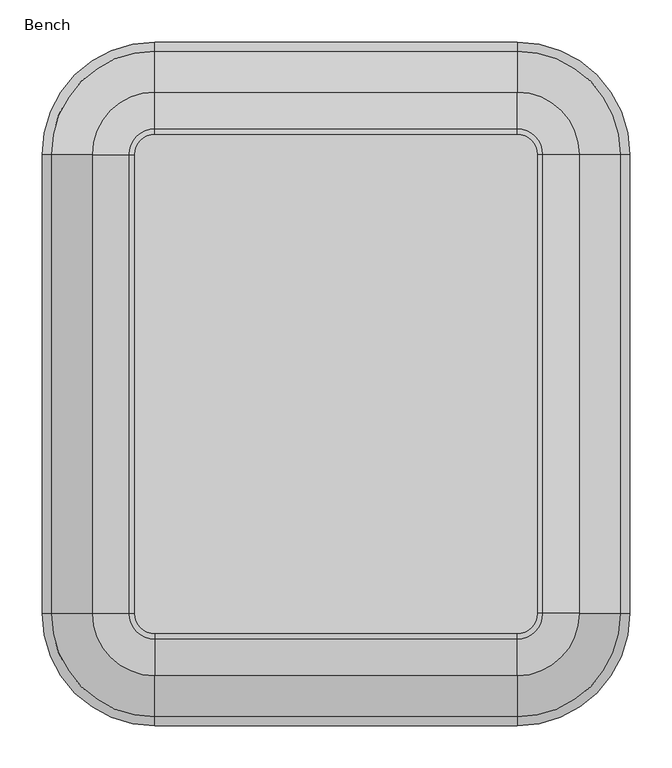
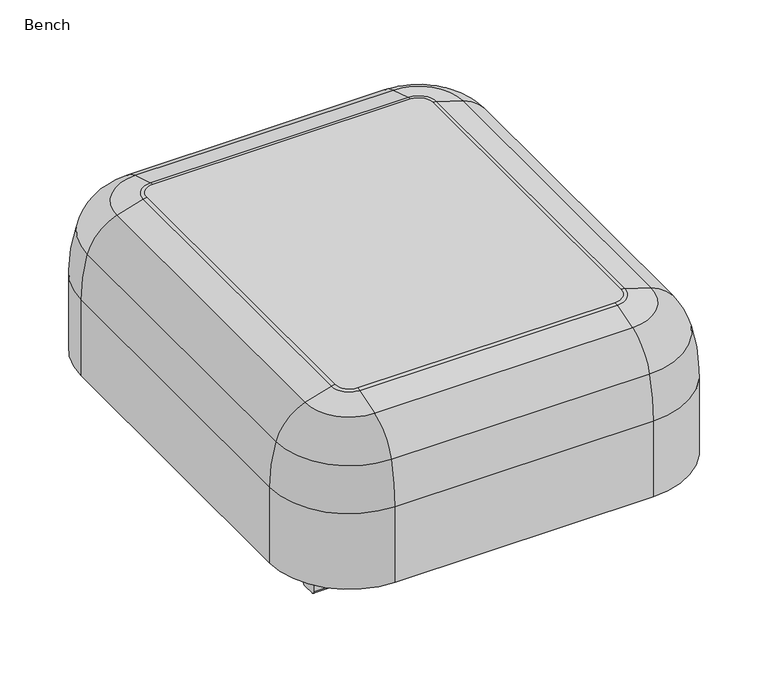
"""IFC4 building model written with IfcOpenShell, lengths in millimetres: furniture geometry, Coalesse_AM_Seating_LoungeChair_Ensemble_Modular_Bench : Bench."""

from ifc_helpers import new_model, si_unit, point, frame, frame_2d, origin, place, context, project, spatial, polyline, circle_curve, ellipse_curve, trimmed, segment, composite_curve, outline, extrude, source, transform, mapped, element, save
from ifc_brep_helpers import plane_surface, cylinder_surface, revolved_surface, advanced_brep


def bench_887439ae(model_context):
    return source(origin(), model_context, "Body", "SolidModel", [
        advanced_brep(
        [(349.7670833, 133.8670833, 263.8730144), (349.7670833, 133.8670833, 130.0907271), (349.7670833, 679.9670833, 130.0907271), (349.7670833, 679.9670833, 263.8730144), (338.9812591, 679.9670833, 341.0501129), (338.9812591, 133.8670833, 341.0501129), (290.0181867, 679.9670833, 393.2641497), (290.0181867, 133.8670833, 393.2641497), (215.9, 813.8341665, 263.8730144), (215.9, 813.8341665, 130.0907271), (-215.9, 813.8341665, 130.0907271), (-215.9, 813.8341665, 263.8730144), (-215.9, 803.0483423, 341.0501129), (215.9, 803.0483423, 341.0501129), (-215.9, 754.0852699, 393.2641497), (215.9, 754.0852699, 393.2641497), (-349.7670833, 679.9670833, 263.8730144), (-349.7670833, 679.9670833, 130.0907271), (-349.7670833, 133.8670833, 130.0907271), (-349.7670833, 133.8670833, 263.8730144), (-338.9812591, 133.8670833, 341.0501129), (-338.9812591, 679.9670833, 341.0501129), (-290.0181867, 133.8670833, 393.2641497), (-290.0181867, 679.9670833, 393.2641497), (-215.9, 0.0, 263.8730144), (-215.9, 0.0, 130.0907271), (215.9, 0.0, 130.0907271), (215.9, 0.0, 263.8730144), (215.9, 10.7858242, 341.0501129), (-215.9, 10.7858242, 341.0501129), (215.9, 59.7488966, 393.2641497), (-215.9, 59.7488966, 393.2641497), (246.3697275, 133.8670833, 406.9392607), (215.9, 103.3973557, 406.9392607), (246.3697275, 679.9670833, 406.9392607), (215.9, 710.4368108, 406.9392607), (-215.9, 710.4368108, 406.9392607), (-246.3697275, 679.9670833, 406.9392607), (-246.3697275, 133.8670833, 406.9392607), (-215.9, 103.3973557, 406.9392607), (240.066495, 133.8670833, 407.7802548), (215.9, 109.7005883, 407.7802548), (240.066495, 679.9670833, 407.7802548), (215.9, 704.1335782, 407.7802548), (-215.9, 704.1335782, 407.7802548), (-240.066495, 679.9670833, 407.7802548), (-240.066495, 133.8670833, 407.7802548), (-215.9, 109.7005883, 407.7802548)],
        [
            (0, 1),
            (1, 2),
            (2, 3),
            (3, 0),
            (3, 4, circle_curve(frame((68.2569074, 679.9670833, 263.8730144), z_axis=(0.0, -1.0, 0.0), x_axis=(1.0, 0.0, 0.0)), 281.5101759)),
            (4, 5),
            (5, 0, circle_curve(frame((68.2569074, 133.8670833, 263.8730144), z_axis=(0.0, 1.0, 0.0), x_axis=(1.0, 0.0, 0.0)), 281.5101759)),
            (4, 6, circle_curve(frame((263.8055604, 679.9670833, 319.6193023), z_axis=(0.0, -1.0, 0.0), x_axis=(1.0, 0.0, 0.0)), 78.1707446)),
            (6, 7),
            (7, 5, circle_curve(frame((263.8055604, 133.8670833, 319.6193023), z_axis=(0.0, 1.0, 0.0), x_axis=(1.0, 0.0, 0.0)), 78.1707446)),
            (8, 9),
            (9, 10),
            (10, 11),
            (11, 8),
            (11, 12, circle_curve(frame((-215.9, 532.3239907, 263.8730144), z_axis=(1.0, 0.0, 0.0), x_axis=(0.0, 1.0, 0.0)), 281.5101759)),
            (12, 13),
            (13, 8, circle_curve(frame((215.9, 532.3239907, 263.8730144), z_axis=(-1.0, 0.0, 0.0), x_axis=(0.0, 1.0, 0.0)), 281.5101759)),
            (12, 14, circle_curve(frame((-215.9, 727.8726436, 319.6193023), z_axis=(1.0, 0.0, 0.0), x_axis=(0.0, 1.0, 0.0)), 78.1707446)),
            (14, 15),
            (15, 13, circle_curve(frame((215.9, 727.8726436, 319.6193023), z_axis=(-1.0, 0.0, 0.0), x_axis=(0.0, 1.0, 0.0)), 78.1707446)),
            (16, 17),
            (17, 18),
            (18, 19),
            (19, 16),
            (19, 20, circle_curve(frame((-68.2569074, 133.8670833, 263.8730144), z_axis=(0.0, 1.0, 0.0), x_axis=(-1.0, 0.0, 0.0)), 281.5101759)),
            (20, 21),
            (21, 16, circle_curve(frame((-68.2569074, 679.9670833, 263.8730144), z_axis=(0.0, -1.0, 0.0), x_axis=(-1.0, 0.0, 0.0)), 281.5101759)),
            (20, 22, circle_curve(frame((-263.8055604, 133.8670833, 319.6193023), z_axis=(0.0, 1.0, 0.0), x_axis=(-1.0, 0.0, 0.0)), 78.1707446)),
            (22, 23),
            (23, 21, circle_curve(frame((-263.8055604, 679.9670833, 319.6193023), z_axis=(0.0, -1.0, 0.0), x_axis=(-1.0, 0.0, 0.0)), 78.1707446)),
            (24, 25),
            (25, 26),
            (26, 27),
            (27, 24),
            (27, 28, circle_curve(frame((215.9, 281.5101759, 263.8730144), z_axis=(-1.0, 0.0, 0.0), x_axis=(0.0, -1.0, 0.0)), 281.5101759)),
            (28, 29),
            (29, 24, circle_curve(frame((-215.9, 281.5101759, 263.8730144), z_axis=(1.0, 0.0, 0.0), x_axis=(0.0, -1.0, 0.0)), 281.5101759)),
            (28, 30, circle_curve(frame((215.9, 85.9615229, 319.6193023), z_axis=(-1.0, 0.0, 0.0), x_axis=(0.0, -1.0, 0.0)), 78.1707446)),
            (30, 31),
            (31, 29, circle_curve(frame((-215.9, 85.9615229, 319.6193023), z_axis=(1.0, 0.0, 0.0), x_axis=(0.0, -1.0, 0.0)), 78.1707446)),
            (0, 27, circle_curve(frame((215.9, 133.8670833, 263.8730144), z_axis=(0.0, 0.0, -1.0), x_axis=(0.0, -1.0, 0.0)), 133.8670833)),
            (26, 1, circle_curve(frame((215.9, 133.8670833, 130.0907271), z_axis=(0.0, 0.0, 1.0), x_axis=(0.0, -1.0, 0.0)), 133.8670833)),
            (5, 28, circle_curve(frame((215.9, 133.8670833, 341.0501129), z_axis=(0.0, 0.0, -1.0), x_axis=(0.0, -1.0, 0.0)), 123.0812591)),
            (7, 30, circle_curve(frame((215.9, 133.8670833, 393.2641497), z_axis=(0.0, 0.0, -1.0), x_axis=(0.0, -1.0, 0.0)), 74.1181867)),
            (7, 32, circle_curve(frame((89.9223899, 133.8670833, -168.9086074), z_axis=(0.0, -1.0, 0.0), x_axis=(1.0, 0.0, 0.0)), 596.7214901)),
            (32, 33, circle_curve(frame((215.9, 133.8670833, 406.9392607), z_axis=(0.0, 0.0, -1.0), x_axis=(0.0, -1.0, 0.0)), 30.4697275)),
            (33, 30, circle_curve(frame((215.9, 259.8446933, -168.9086074), z_axis=(1.0, 0.0, 0.0), x_axis=(0.0, -1.0, 0.0)), 596.7214901)),
            (6, 34, circle_curve(frame((89.9223899, 679.9670833, -168.9086074), z_axis=(0.0, -1.0, 0.0), x_axis=(1.0, 0.0, 0.0)), 596.7214901)),
            (34, 32),
            (2, 9, circle_curve(frame((215.9, 679.9670833, 130.0907271), z_axis=(0.0, 0.0, 1.0), x_axis=(1.0, 0.0, 0.0)), 133.8670833)),
            (8, 3, circle_curve(frame((215.9, 679.9670833, 263.8730144), z_axis=(0.0, 0.0, -1.0), x_axis=(1.0, 0.0, 0.0)), 133.8670833)),
            (13, 4, circle_curve(frame((215.9, 679.9670833, 341.0501129), z_axis=(0.0, 0.0, -1.0), x_axis=(1.0, 0.0, 0.0)), 123.0812591)),
            (15, 6, circle_curve(frame((215.9, 679.9670833, 393.2641497), z_axis=(0.0, 0.0, -1.0), x_axis=(1.0, 0.0, 0.0)), 74.1181867)),
            (15, 35, circle_curve(frame((215.9, 553.9894732, -168.9086074), z_axis=(1.0, 0.0, 0.0), x_axis=(0.0, 1.0, 0.0)), 596.7214901)),
            (35, 34, circle_curve(frame((215.9, 679.9670833, 406.9392607), z_axis=(0.0, 0.0, -1.0), x_axis=(1.0, 0.0, 0.0)), 30.4697275)),
            (14, 36, circle_curve(frame((-215.9, 553.9894732, -168.9086074), z_axis=(1.0, 0.0, 0.0), x_axis=(0.0, 1.0, 0.0)), 596.7214901)),
            (36, 35),
            (10, 17, circle_curve(frame((-215.9, 679.9670833, 130.0907271), z_axis=(0.0, 0.0, 1.0), x_axis=(0.0, 1.0, 0.0)), 133.8670833)),
            (16, 11, circle_curve(frame((-215.9, 679.9670833, 263.8730144), z_axis=(0.0, 0.0, -1.0), x_axis=(0.0, 1.0, 0.0)), 133.8670833)),
            (21, 12, circle_curve(frame((-215.9, 679.9670833, 341.0501129), z_axis=(0.0, 0.0, -1.0), x_axis=(0.0, 1.0, 0.0)), 123.0812591)),
            (23, 14, circle_curve(frame((-215.9, 679.9670833, 393.2641497), z_axis=(0.0, 0.0, -1.0), x_axis=(0.0, 1.0, 0.0)), 74.1181867)),
            (23, 37, circle_curve(frame((-89.9223899, 679.9670833, -168.9086074), z_axis=(0.0, 1.0, 0.0), x_axis=(-1.0, 0.0, 0.0)), 596.7214901)),
            (37, 36, circle_curve(frame((-215.9, 679.9670833, 406.9392607), z_axis=(0.0, 0.0, -1.0), x_axis=(0.0, 1.0, 0.0)), 30.4697275)),
            (22, 38, circle_curve(frame((-89.9223899, 133.8670833, -168.9086074), z_axis=(0.0, 1.0, 0.0), x_axis=(-1.0, 0.0, 0.0)), 596.7214901)),
            (38, 37),
            (18, 25, circle_curve(frame((-215.9, 133.8670833, 130.0907271), z_axis=(0.0, 0.0, 1.0), x_axis=(-1.0, 0.0, 0.0)), 133.8670833)),
            (24, 19, circle_curve(frame((-215.9, 133.8670833, 263.8730144), z_axis=(0.0, 0.0, -1.0), x_axis=(-1.0, 0.0, 0.0)), 133.8670833)),
            (29, 20, circle_curve(frame((-215.9, 133.8670833, 341.0501129), z_axis=(0.0, 0.0, -1.0), x_axis=(-1.0, 0.0, 0.0)), 123.0812591)),
            (31, 22, circle_curve(frame((-215.9, 133.8670833, 393.2641497), z_axis=(0.0, 0.0, -1.0), x_axis=(-1.0, 0.0, 0.0)), 74.1181867)),
            (31, 39, circle_curve(frame((-215.9, 259.8446933, -168.9086074), z_axis=(-1.0, 0.0, 0.0), x_axis=(0.0, -1.0, 0.0)), 596.7214901)),
            (39, 38, circle_curve(frame((-215.9, 133.8670833, 406.9392607), z_axis=(0.0, 0.0, -1.0), x_axis=(-1.0, 0.0, 0.0)), 30.4697275)),
            (33, 39),
            (32, 40, circle_curve(frame((240.066495, 133.8670833, 383.738463), z_axis=(0.0, -1.0, 0.0), x_axis=(1.0, 0.0, 0.0)), 24.0417918)),
            (40, 41, circle_curve(frame((215.9, 133.8670833, 407.7802548), z_axis=(0.0, 0.0, -1.0), x_axis=(0.0, -1.0, 0.0)), 24.166495)),
            (41, 33, circle_curve(frame((215.9, 109.7005883, 383.738463), z_axis=(1.0, 0.0, 0.0), x_axis=(0.0, -1.0, 0.0)), 24.0417918)),
            (34, 42, circle_curve(frame((240.066495, 679.9670833, 383.738463), z_axis=(0.0, -1.0, 0.0), x_axis=(1.0, 0.0, 0.0)), 24.0417918)),
            (42, 40),
            (35, 43, circle_curve(frame((215.9, 704.1335782, 383.738463), z_axis=(1.0, 0.0, 0.0), x_axis=(0.0, 1.0, 0.0)), 24.0417918)),
            (43, 42, circle_curve(frame((215.9, 679.9670833, 407.7802548), z_axis=(0.0, 0.0, -1.0), x_axis=(1.0, 0.0, 0.0)), 24.166495)),
            (36, 44, circle_curve(frame((-215.9, 704.1335782, 383.738463), z_axis=(1.0, 0.0, 0.0), x_axis=(0.0, 1.0, 0.0)), 24.0417918)),
            (44, 43),
            (37, 45, circle_curve(frame((-240.066495, 679.9670833, 383.738463), z_axis=(0.0, 1.0, 0.0), x_axis=(-1.0, 0.0, 0.0)), 24.0417918)),
            (45, 44, circle_curve(frame((-215.9, 679.9670833, 407.7802548), z_axis=(0.0, 0.0, -1.0), x_axis=(0.0, 1.0, 0.0)), 24.166495)),
            (38, 46, circle_curve(frame((-240.066495, 133.8670833, 383.738463), z_axis=(0.0, 1.0, 0.0), x_axis=(-1.0, 0.0, 0.0)), 24.0417918)),
            (46, 45),
            (39, 47, circle_curve(frame((-215.9, 109.7005883, 383.738463), z_axis=(-1.0, 0.0, 0.0), x_axis=(0.0, -1.0, 0.0)), 24.0417918)),
            (47, 46, circle_curve(frame((-215.9, 133.8670833, 407.7802548), z_axis=(0.0, 0.0, -1.0), x_axis=(-1.0, 0.0, 0.0)), 24.166495)),
            (41, 47),
        ],
        [
            plane_surface(frame((349.7670833, 133.8670833, 130.0907271), z_axis=(1.0, 0.0, 0.0), x_axis=(0.0, 1.0, 0.0))),
            cylinder_surface(frame((68.2569074, 133.8670833, 263.8730144), z_axis=(0.0, -1.0, 0.0), x_axis=(1.0, 0.0, 0.0)), 281.5101759),
            cylinder_surface(frame((263.8055604, 133.8670833, 319.6193023), z_axis=(0.0, -1.0, 0.0), x_axis=(1.0, 0.0, 0.0)), 78.1707446),
            plane_surface(frame((215.9, 813.8341665, 130.0907271), z_axis=(0.0, 1.0, 0.0), x_axis=(-1.0, 0.0, 0.0))),
            cylinder_surface(frame((215.9, 532.3239907, 263.8730144), z_axis=(1.0, 0.0, 0.0), x_axis=(0.0, 1.0, 0.0)), 281.5101759),
            cylinder_surface(frame((215.9, 727.8726436, 319.6193023), z_axis=(1.0, 0.0, 0.0), x_axis=(0.0, 1.0, 0.0)), 78.1707446),
            plane_surface(frame((-349.7670833, 679.9670833, 130.0907271), z_axis=(-1.0, 0.0, 0.0), x_axis=(0.0, -1.0, 0.0))),
            cylinder_surface(frame((-68.2569074, 679.9670833, 263.8730144), z_axis=(0.0, 1.0, 0.0), x_axis=(-1.0, 0.0, 0.0)), 281.5101759),
            cylinder_surface(frame((-263.8055604, 679.9670833, 319.6193023), z_axis=(0.0, 1.0, 0.0), x_axis=(-1.0, 0.0, 0.0)), 78.1707446),
            plane_surface(frame((-215.9, 0.0, 130.0907271), z_axis=(0.0, -1.0, 0.0), x_axis=(1.0, 0.0, 0.0))),
            cylinder_surface(frame((-215.9, 281.5101759, 263.8730144), z_axis=(-1.0, 0.0, 0.0), x_axis=(0.0, -1.0, 0.0)), 281.5101759),
            cylinder_surface(frame((-215.9, 85.9615229, 319.6193023), z_axis=(-1.0, 0.0, 0.0), x_axis=(0.0, -1.0, 0.0)), 78.1707446),
            cylinder_surface(frame((215.9, 133.8670833, 0.0), z_axis=(0.0, 0.0, 1.0), x_axis=(0.0, -1.0, 0.0)), 133.8670833),
            revolved_surface(trimmed(ellipse_curve(frame((215.9, 281.5101759, 263.8730144), z_axis=(-1.0, 0.0, 0.0), x_axis=(0.0, -1.0, 0.0)), 281.5101759, 281.5101759), [point((215.9, 0.0, 263.8730144))], [point((215.9, 10.7858242, 341.0501129))], True, "CARTESIAN"), (215.9, 133.8670833, 0.0), (0.0, 0.0, 1.0)),
            revolved_surface(trimmed(ellipse_curve(frame((215.9, 85.9615229, 319.6193023), z_axis=(-1.0, 0.0, 0.0), x_axis=(0.0, -1.0, 0.0)), 78.1707446, 78.1707446), [point((215.9, 10.7858242, 341.0501129))], [point((215.9, 59.7488966, 393.2641497))], True, "CARTESIAN"), (215.9, 133.8670833, 0.0), (0.0, 0.0, 1.0)),
            revolved_surface(trimmed(ellipse_curve(frame((215.9, 259.8446933, -168.9086074), z_axis=(-1.0, 0.0, 0.0), x_axis=(0.0, -1.0, 0.0)), 596.7214901, 596.7214901), [point((215.9, 59.7488966, 393.2641497))], [point((215.9, 103.3973557, 406.9392607))], True, "CARTESIAN"), (215.9, 133.8670833, 0.0), (0.0, 0.0, 1.0)),
            cylinder_surface(frame((89.9223899, 133.8670833, -168.9086074), z_axis=(0.0, -1.0, 0.0), x_axis=(1.0, 0.0, 0.0)), 596.7214901),
            cylinder_surface(frame((215.9, 679.9670833, 0.0), z_axis=(0.0, 0.0, 1.0), x_axis=(1.0, 0.0, 0.0)), 133.8670833),
            revolved_surface(trimmed(ellipse_curve(frame((68.2569074, 679.9670833, 263.8730144), z_axis=(0.0, -1.0, 0.0), x_axis=(1.0, 0.0, 0.0)), 281.5101759, 281.5101759), [point((349.7670833, 679.9670833, 263.8730144))], [point((338.9812591, 679.9670833, 341.0501129))], True, "CARTESIAN"), (215.9, 679.9670833, 0.0), (0.0, 0.0, 1.0)),
            revolved_surface(trimmed(ellipse_curve(frame((263.8055604, 679.9670833, 319.6193023), z_axis=(0.0, -1.0, 0.0), x_axis=(1.0, 0.0, 0.0)), 78.1707446, 78.1707446), [point((338.9812591, 679.9670833, 341.0501129))], [point((290.0181867, 679.9670833, 393.2641497))], True, "CARTESIAN"), (215.9, 679.9670833, 0.0), (0.0, 0.0, 1.0)),
            revolved_surface(trimmed(ellipse_curve(frame((89.9223899, 679.9670833, -168.9086074), z_axis=(0.0, -1.0, 0.0), x_axis=(1.0, 0.0, 0.0)), 596.7214901, 596.7214901), [point((290.0181867, 679.9670833, 393.2641497))], [point((246.3697275, 679.9670833, 406.9392607))], True, "CARTESIAN"), (215.9, 679.9670833, 0.0), (0.0, 0.0, 1.0)),
            cylinder_surface(frame((215.9, 553.9894732, -168.9086074), z_axis=(1.0, 0.0, 0.0), x_axis=(0.0, 1.0, 0.0)), 596.7214901),
            cylinder_surface(frame((-215.9, 679.9670833, 0.0), z_axis=(0.0, 0.0, 1.0), x_axis=(0.0, 1.0, 0.0)), 133.8670833),
            revolved_surface(trimmed(ellipse_curve(frame((-215.9, 532.3239907, 263.8730144), z_axis=(1.0, 0.0, 0.0), x_axis=(0.0, 1.0, 0.0)), 281.5101759, 281.5101759), [point((-215.9, 813.8341665, 263.8730144))], [point((-215.9, 803.0483423, 341.0501129))], True, "CARTESIAN"), (-215.9, 679.9670833, 0.0), (0.0, 0.0, 1.0)),
            revolved_surface(trimmed(ellipse_curve(frame((-215.9, 727.8726436, 319.6193023), z_axis=(1.0, 0.0, 0.0), x_axis=(0.0, 1.0, 0.0)), 78.1707446, 78.1707446), [point((-215.9, 803.0483423, 341.0501129))], [point((-215.9, 754.0852699, 393.2641497))], True, "CARTESIAN"), (-215.9, 679.9670833, 0.0), (0.0, 0.0, 1.0)),
            revolved_surface(trimmed(ellipse_curve(frame((-215.9, 553.9894732, -168.9086074), z_axis=(1.0, 0.0, 0.0), x_axis=(0.0, 1.0, 0.0)), 596.7214901, 596.7214901), [point((-215.9, 754.0852699, 393.2641497))], [point((-215.9, 710.4368108, 406.9392607))], True, "CARTESIAN"), (-215.9, 679.9670833, 0.0), (0.0, 0.0, 1.0)),
            cylinder_surface(frame((-89.9223899, 679.9670833, -168.9086074), z_axis=(0.0, 1.0, 0.0), x_axis=(-1.0, 0.0, 0.0)), 596.7214901),
            cylinder_surface(frame((-215.9, 133.8670833, 0.0), z_axis=(0.0, 0.0, 1.0), x_axis=(-1.0, 0.0, 0.0)), 133.8670833),
            revolved_surface(trimmed(ellipse_curve(frame((-68.2569074, 133.8670833, 263.8730144), z_axis=(0.0, 1.0, 0.0), x_axis=(-1.0, 0.0, 0.0)), 281.5101759, 281.5101759), [point((-349.7670833, 133.8670833, 263.8730144))], [point((-338.9812591, 133.8670833, 341.0501129))], True, "CARTESIAN"), (-215.9, 133.8670833, 0.0), (0.0, 0.0, 1.0)),
            revolved_surface(trimmed(ellipse_curve(frame((-263.8055604, 133.8670833, 319.6193023), z_axis=(0.0, 1.0, 0.0), x_axis=(-1.0, 0.0, 0.0)), 78.1707446, 78.1707446), [point((-338.9812591, 133.8670833, 341.0501129))], [point((-290.0181867, 133.8670833, 393.2641497))], True, "CARTESIAN"), (-215.9, 133.8670833, 0.0), (0.0, 0.0, 1.0)),
            revolved_surface(trimmed(ellipse_curve(frame((-89.9223899, 133.8670833, -168.9086074), z_axis=(0.0, 1.0, 0.0), x_axis=(-1.0, 0.0, 0.0)), 596.7214901, 596.7214901), [point((-290.0181867, 133.8670833, 393.2641497))], [point((-246.3697275, 133.8670833, 406.9392607))], True, "CARTESIAN"), (-215.9, 133.8670833, 0.0), (0.0, 0.0, 1.0)),
            plane_surface(frame((-215.9, 133.8670833, 130.0907271), z_axis=(0.0, 0.0, -1.0), x_axis=(-1.0, 0.0, 0.0))),
            cylinder_surface(frame((-215.9, 259.8446933, -168.9086074), z_axis=(-1.0, 0.0, 0.0), x_axis=(0.0, -1.0, 0.0)), 596.7214901),
            revolved_surface(trimmed(ellipse_curve(frame((215.9, 109.7005883, 383.738463), z_axis=(-1.0, 0.0, 0.0), x_axis=(0.0, -1.0, 0.0)), 24.0417918, 24.0417918), [point((215.9, 103.3973557, 406.9392607))], [point((215.9, 109.7005883, 407.7802548))], True, "CARTESIAN"), (215.9, 133.8670833, 0.0), (0.0, 0.0, 1.0)),
            cylinder_surface(frame((240.066495, 133.8670833, 383.738463), z_axis=(0.0, -1.0, 0.0), x_axis=(1.0, 0.0, 0.0)), 24.0417918),
            revolved_surface(trimmed(ellipse_curve(frame((240.066495, 679.9670833, 383.738463), z_axis=(0.0, -1.0, 0.0), x_axis=(1.0, 0.0, 0.0)), 24.0417918, 24.0417918), [point((246.3697275, 679.9670833, 406.9392607))], [point((240.066495, 679.9670833, 407.7802548))], True, "CARTESIAN"), (215.9, 679.9670833, 0.0), (0.0, 0.0, 1.0)),
            cylinder_surface(frame((215.9, 704.1335782, 383.738463), z_axis=(1.0, 0.0, 0.0), x_axis=(0.0, 1.0, 0.0)), 24.0417918),
            revolved_surface(trimmed(ellipse_curve(frame((-215.9, 704.1335782, 383.738463), z_axis=(1.0, 0.0, 0.0), x_axis=(0.0, 1.0, 0.0)), 24.0417918, 24.0417918), [point((-215.9, 710.4368108, 406.9392607))], [point((-215.9, 704.1335782, 407.7802548))], True, "CARTESIAN"), (-215.9, 679.9670833, 0.0), (0.0, 0.0, 1.0)),
            cylinder_surface(frame((-240.066495, 679.9670833, 383.738463), z_axis=(0.0, 1.0, 0.0), x_axis=(-1.0, 0.0, 0.0)), 24.0417918),
            revolved_surface(trimmed(ellipse_curve(frame((-240.066495, 133.8670833, 383.738463), z_axis=(0.0, 1.0, 0.0), x_axis=(-1.0, 0.0, 0.0)), 24.0417918, 24.0417918), [point((-246.3697275, 133.8670833, 406.9392607))], [point((-240.066495, 133.8670833, 407.7802548))], True, "CARTESIAN"), (-215.9, 133.8670833, 0.0), (0.0, 0.0, 1.0)),
            cylinder_surface(frame((-215.9, 109.7005883, 383.738463), z_axis=(-1.0, 0.0, 0.0), x_axis=(0.0, -1.0, 0.0)), 24.0417918),
            plane_surface(frame((-215.9, 109.7005883, 407.7802548), z_axis=(0.0, 0.0, 1.0), x_axis=(1.0, 0.0, 0.0))),
        ],
        [
            (0, [[1, 2, 3, 4]]),
            (1, [[-4, 5, 6, 7]]),
            (2, [[-6, 8, 9, 10]]),
            (3, [[11, 12, 13, 14]]),
            (4, [[-14, 15, 16, 17]]),
            (5, [[-16, 18, 19, 20]]),
            (6, [[21, 22, 23, 24]]),
            (7, [[-24, 25, 26, 27]]),
            (8, [[-26, 28, 29, 30]]),
            (9, [[31, 32, 33, 34]]),
            (10, [[-34, 35, 36, 37]]),
            (11, [[-36, 38, 39, 40]]),
            (12, [[-1, 41, -33, 42]]),
            (13, [[-7, 43, -35, -41]]),
            (14, [[-10, 44, -38, -43]]),
            (15, [[-44, 45, 46, 47]]),
            (16, [[-9, 48, 49, -45]]),
            (17, [[-3, 50, -11, 51]]),
            (18, [[-5, -51, -17, 52]]),
            (19, [[-8, -52, -20, 53]]),
            (20, [[-48, -53, 54, 55]]),
            (21, [[-19, 56, 57, -54]]),
            (22, [[-13, 58, -21, 59]]),
            (23, [[-15, -59, -27, 60]]),
            (24, [[-18, -60, -30, 61]]),
            (25, [[-56, -61, 62, 63]]),
            (26, [[-29, 64, 65, -62]]),
            (27, [[-23, 66, -31, 67]]),
            (28, [[-25, -67, -37, 68]]),
            (29, [[-28, -68, -40, 69]]),
            (30, [[-64, -69, 70, 71]]),
            (31, [[-2, -42, -32, -66, -22, -58, -12, -50]]),
            (32, [[-39, -47, 72, -70]]),
            (33, [[-46, 73, 74, 75]]),
            (34, [[-49, 76, 77, -73]]),
            (35, [[-55, 78, 79, -76]]),
            (36, [[-57, 80, 81, -78]]),
            (37, [[-63, 82, 83, -80]]),
            (38, [[-65, 84, 85, -82]]),
            (39, [[-71, 86, 87, -84]]),
            (40, [[-72, -75, 88, -86]]),
            (41, [[-74, -77, -79, -81, -83, -85, -87, -88]]),
        ],
    ),
        extrude(outline(composite_curve([segment(polyline([(107.8286615, 130.0907271), (127.950447, 130.0907271)]), True, "CONTINUOUS"), segment(trimmed(circle_curve(frame_2d((127.950447, 125.0107271)), 5.08), [point((127.950447, 130.0907271))], [point((133.030447, 125.0107271))], False, "CARTESIAN"), True, "CONTINUOUS"), segment(polyline([(133.030447, 125.0107271), (133.030447, 77.7918819)]), True, "CONTINUOUS"), segment(trimmed(circle_curve(frame_2d((128.0608234, 77.7918819)), 4.9696236), [point((133.030447, 77.7918819))], [point((128.0608234, 72.8222583))], False, "CARTESIAN"), True, "CONTINUOUS"), segment(polyline([(128.0608234, 72.8222583), (107.8286615, 72.8222583)]), True, "CONTINUOUS"), segment(trimmed(circle_curve(frame_2d((107.8286615, 77.9022583)), 5.08), [point((107.8286615, 72.8222583))], [point((102.7486615, 77.9022583))], False, "CARTESIAN"), True, "CONTINUOUS"), segment(polyline([(102.7486615, 77.9022583), (102.7486615, 125.0107271)]), True, "CONTINUOUS"), segment(trimmed(circle_curve(frame_2d((107.8286615, 125.0107271)), 5.08), [point((102.7486615, 125.0107271))], [point((107.8286615, 130.0907271))], False, "CARTESIAN"), True, "CONTINUOUS")], self_intersect=False)), frame((-293.2169131, 0.0, 0.0), z_axis=(1.0, 0.0, 0.0), x_axis=(0.0, 1.0, 0.0)), (0.0, 0.0, 1.0), 586.4338262),
        extrude(outline(composite_curve([segment(polyline([(688.0509148, 130.0907271), (708.1727003, 130.0907271)]), True, "CONTINUOUS"), segment(trimmed(circle_curve(frame_2d((708.1727003, 125.0107271)), 5.08), [point((708.1727003, 130.0907271))], [point((713.2527003, 125.0107271))], False, "CARTESIAN"), True, "CONTINUOUS"), segment(polyline([(713.2527003, 125.0107271), (713.2527003, 77.7918819)]), True, "CONTINUOUS"), segment(trimmed(circle_curve(frame_2d((708.2830767, 77.7918819)), 4.9696236), [point((713.2527003, 77.7918819))], [point((708.2830767, 72.8222583))], False, "CARTESIAN"), True, "CONTINUOUS"), segment(polyline([(708.2830767, 72.8222583), (688.0509148, 72.8222583)]), True, "CONTINUOUS"), segment(trimmed(circle_curve(frame_2d((688.0509148, 77.9022583)), 5.08), [point((688.0509148, 72.8222583))], [point((682.9709148, 77.9022583))], False, "CARTESIAN"), True, "CONTINUOUS"), segment(polyline([(682.9709148, 77.9022583), (682.9709148, 125.0107271)]), True, "CONTINUOUS"), segment(trimmed(circle_curve(frame_2d((688.0509148, 125.0107271)), 5.08), [point((682.9709148, 125.0107271))], [point((688.0509148, 130.0907271))], False, "CARTESIAN"), True, "CONTINUOUS")], self_intersect=False)), frame((-293.2169131, 0.0, 0.0), z_axis=(1.0, 0.0, 0.0), x_axis=(0.0, 1.0, 0.0)), (0.0, 0.0, 1.0), 586.4338262),
        extrude(outline(polyline([(244.5324279, 56.0547181), (-245.7576083, 56.0547181), (-245.7576083, 767.5830468), (244.5324279, 767.5830468), (244.5324279, 56.0547181)])), frame((0.0, 0.0, 120.4544369), z_axis=(0.0, 0.0, 1.0), x_axis=(1.0, 0.0, 0.0)), (0.0, 0.0, 1.0), 9.6362902),
    ])


if __name__ == "__main__":
    model = new_model("IFC4")
    model_context = context("Model", 3, world=origin())
    ifc_project = project(units=[si_unit("LENGTHUNIT", "METRE", prefix="MILLI")], contexts=[model_context])
    site = spatial("IfcSite", under=ifc_project)
    building = spatial("IfcBuilding", under=site)
    placement = place(None, origin())
    bench_shape = bench_887439ae(model_context)
    element("IfcFurniture", 1, ObjectType="Coalesse_AM_Seating_LoungeChair_Ensemble_Modular_Bench : Bench", at=placement, inside=building, context=model_context, shape_type="MappedRepresentation", body=[
        mapped(bench_shape, transform((0.0, 0.0, 0.0), x_axis=(1.0, 0.0, 0.0), y_axis=(0.0, 1.0, 0.0), z_axis=(0.0, 0.0, 1.0))),
    ])
    save(model, "model.ifc")
